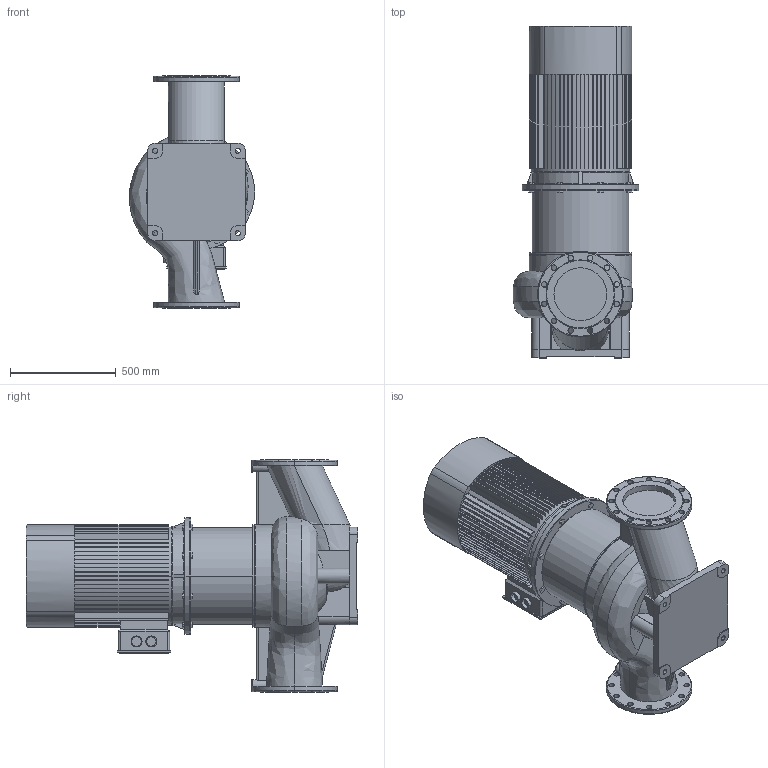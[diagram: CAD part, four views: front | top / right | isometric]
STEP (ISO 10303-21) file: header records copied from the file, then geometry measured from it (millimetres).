
FILE_DESCRIPTION (( 'STEP AP203' ), '1' );
FILE_NAME ('TD250-20_4.STEP', '2022-05-02T18:08:22', ( '' ), ( '' ), 'SwSTEP 2.0', 'SolidWorks 2019', '' );
FILE_SCHEMA (( 'CONFIG_CONTROL_DESIGN' ));
Length unit declared in the file: millimetre
Products named in the file (4): ED_B5_YE2-250M-4 (55); TD250-20_4; Fon_250_TD250-20_4; Pr_ch 250_TD250-20_4
Assembly tree (3 placements, depth 2):
  TD250-20_4
    Pr_ch 250_TD250-20_4
    Fon_250_TD250-20_4
    ED_B5_YE2-250M-4 (55)
Bounding box: 591.95 x 1568 x 1100 mm (x, y, z)
Volume: 271471752.3 mm3; surface area: 6424403.8 mm2
Topology: 13 solids, 15 shells, 825 faces, 2247 edges, 1490 vertices
Faces by surface type: plane 566, cylinder 187, torus 34, bspline 21, cone 17
Entity records: 35502 total; most frequent: CARTESIAN_POINT 13749, ORIENTED_EDGE 4494, DIRECTION 4431, EDGE_CURVE 2247, AXIS2_PLACEMENT_3D 1523, VERTEX_POINT 1490, VECTOR 1385, LINE 1385
